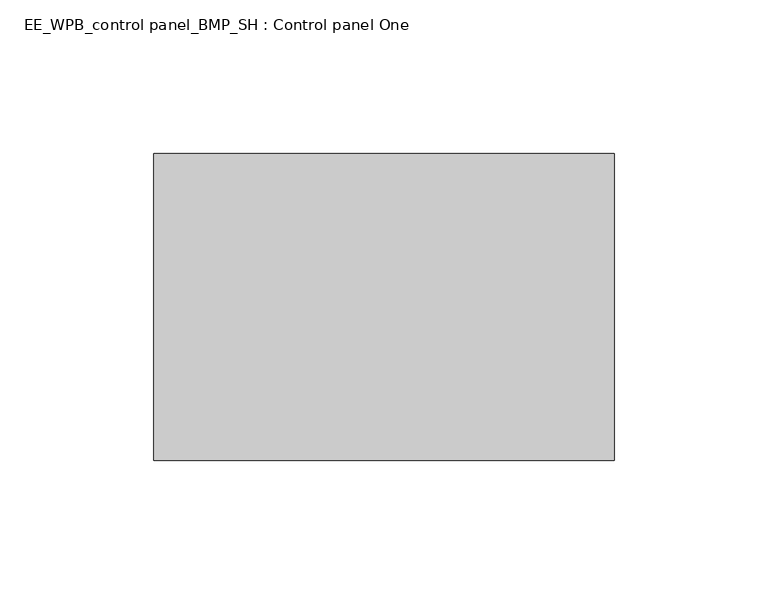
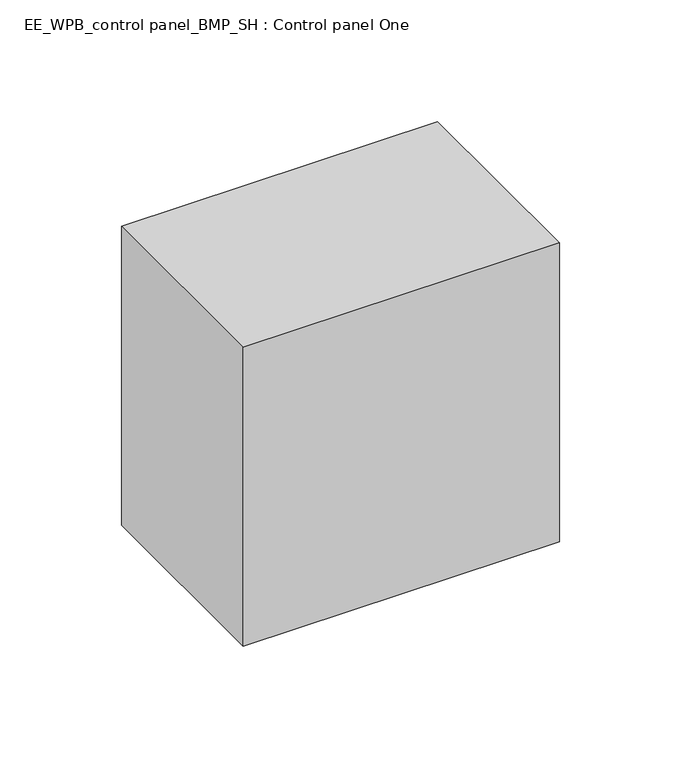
"""IFC4 building model written with IfcOpenShell, lengths in millimetres: electric distribution board geometry, EE_WPB_control panel_BMP_SH : Control panel One."""

from ifc_helpers import new_model, si_unit, origin, origin_with_axes, place, context, project, spatial, polyline, outline, extrude, source, transform, mapped, element, save


def ee_wpb_control_panel_bmp_sh_control_panel_one_fab0d9c8(model_context):
    return source(origin(), model_context, "Body", "SweptSolid", [
        extrude(outline(polyline([(-75.0, 0.0), (75.0, 0.0), (75.0, -100.0), (-75.0, -100.0), (-75.0, 0.0)])), origin_with_axes(), (0.0, 0.0, 1.0), 150.0),
    ])


if __name__ == "__main__":
    model = new_model("IFC4")
    model_context = context("Model", 3, world=origin())
    ifc_project = project(units=[si_unit("LENGTHUNIT", "METRE", prefix="MILLI")], contexts=[model_context])
    site = spatial("IfcSite", under=ifc_project)
    building = spatial("IfcBuilding", under=site)
    placement = place(None, origin())
    ee_wpb_control_panel_bmp_sh_control_panel_one_shape = ee_wpb_control_panel_bmp_sh_control_panel_one_fab0d9c8(model_context)
    element("IfcElectricDistributionBoard", 1, ObjectType="EE_WPB_control panel_BMP_SH : Control panel One", at=placement, inside=building, context=model_context, shape_type="MappedRepresentation", body=[
        mapped(ee_wpb_control_panel_bmp_sh_control_panel_one_shape, transform((0.0, 0.0, 0.0), x_axis=(1.0, 0.0, 0.0), y_axis=(0.0, 1.0, 0.0), z_axis=(0.0, 0.0, 1.0))),
    ])
    save(model, "model.ifc")
